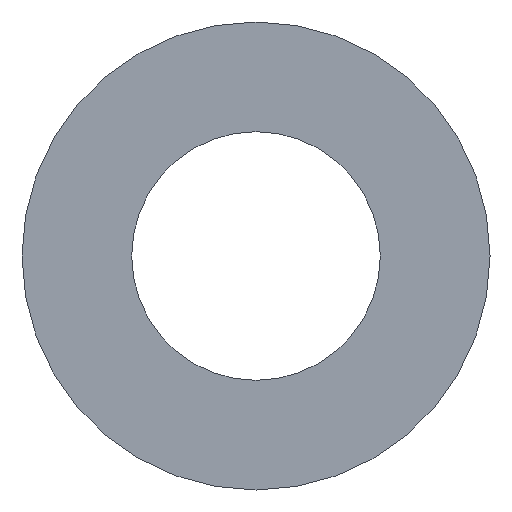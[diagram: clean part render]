
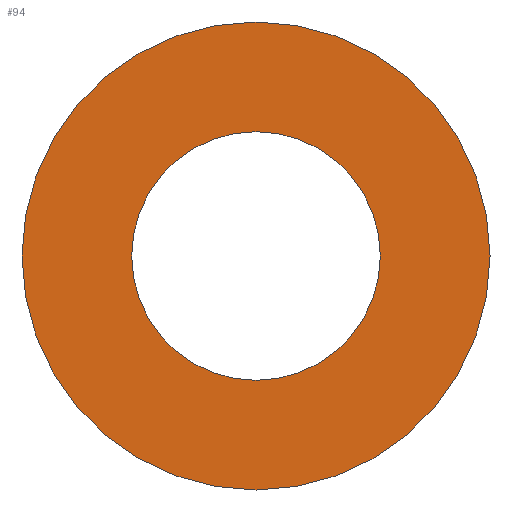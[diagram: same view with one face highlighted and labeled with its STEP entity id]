
A CAD part, front view. The second image highlights one B-rep face of the part: STEP entity #94.
In plain terms, the highlighted planar face has unit normal (0, -1, 0).
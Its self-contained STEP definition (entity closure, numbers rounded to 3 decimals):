
#12 = FACE_OUTER_BOUND ( 'NONE', #144, .T. ) ;
#16 = DIRECTION ( 'NONE',  ( 0., 1., 0. ) ) ;
#22 = CARTESIAN_POINT ( 'NONE',  ( 0., -0.5, 0. ) ) ;
#34 = DIRECTION ( 'NONE',  ( 0., 0., 1. ) ) ;
#36 = CARTESIAN_POINT ( 'NONE',  ( 0., -0.5, 0. ) ) ;
#39 = DIRECTION ( 'NONE',  ( 0., 1., 0. ) ) ;
#41 = EDGE_CURVE ( 'NONE', #266, #252, #298, .T. ) ;
#43 = ORIENTED_EDGE ( 'NONE', *, *, #147, .F. ) ;
#46 = DIRECTION ( 'NONE',  ( 0., 0., 1. ) ) ;
#50 = PLANE ( 'NONE',  #254 ) ;
#56 = CARTESIAN_POINT ( 'NONE',  ( 0., -0.5, 0. ) ) ;
#64 = DIRECTION ( 'NONE',  ( 0., 1., 0. ) ) ;
#70 = DIRECTION ( 'NONE',  ( 0., 0., 1. ) ) ;
#72 = AXIS2_PLACEMENT_3D ( 'NONE', #181, #189, #192 ) ;
#76 = EDGE_LOOP ( 'NONE', ( #278, #131 ) ) ;
#84 = EDGE_CURVE ( 'NONE', #252, #266, #220, .T. ) ;
#87 = ORIENTED_EDGE ( 'NONE', *, *, #175, .F. ) ;
#94 = ADVANCED_FACE ( 'NONE', ( #12, #280 ), #50, .F. ) ;
#114 = AXIS2_PLACEMENT_3D ( 'NONE', #232, #235, #245 ) ;
#128 = AXIS2_PLACEMENT_3D ( 'NONE', #22, #16, #34 ) ;
#131 = ORIENTED_EDGE ( 'NONE', *, *, #41, .T. ) ;
#144 = EDGE_LOOP ( 'NONE', ( #87, #43 ) ) ;
#147 = EDGE_CURVE ( 'NONE', #308, #227, #167, .T. ) ;
#167 = CIRCLE ( 'NONE', #72, 8. ) ;
#175 = EDGE_CURVE ( 'NONE', #227, #308, #343, .T. ) ;
#181 = CARTESIAN_POINT ( 'NONE',  ( 0., -0.5, 0. ) ) ;
#187 = CARTESIAN_POINT ( 'NONE',  ( 0., -0.5, -4.25 ) ) ;
#189 = DIRECTION ( 'NONE',  ( 0., 1., 0. ) ) ;
#192 = DIRECTION ( 'NONE',  ( 0., 0., 1. ) ) ;
#220 = CIRCLE ( 'NONE', #304, 4.25 ) ;
#227 = VERTEX_POINT ( 'NONE', #348 ) ;
#232 = CARTESIAN_POINT ( 'NONE',  ( 0., -0.5, 0. ) ) ;
#235 = DIRECTION ( 'NONE',  ( 0., 1., 0. ) ) ;
#244 = CARTESIAN_POINT ( 'NONE',  ( 0., -0.5, 4.25 ) ) ;
#245 = DIRECTION ( 'NONE',  ( 0., 0., 1. ) ) ;
#252 = VERTEX_POINT ( 'NONE', #187 ) ;
#254 = AXIS2_PLACEMENT_3D ( 'NONE', #56, #64, #70 ) ;
#266 = VERTEX_POINT ( 'NONE', #244 ) ;
#278 = ORIENTED_EDGE ( 'NONE', *, *, #84, .T. ) ;
#280 = FACE_BOUND ( 'NONE', #76, .T. ) ;
#292 = CARTESIAN_POINT ( 'NONE',  ( 0., -0.5, 8. ) ) ;
#298 = CIRCLE ( 'NONE', #128, 4.25 ) ;
#304 = AXIS2_PLACEMENT_3D ( 'NONE', #36, #39, #46 ) ;
#308 = VERTEX_POINT ( 'NONE', #292 ) ;
#343 = CIRCLE ( 'NONE', #114, 8. ) ;
#348 = CARTESIAN_POINT ( 'NONE',  ( 0., -0.5, -8. ) ) ;
